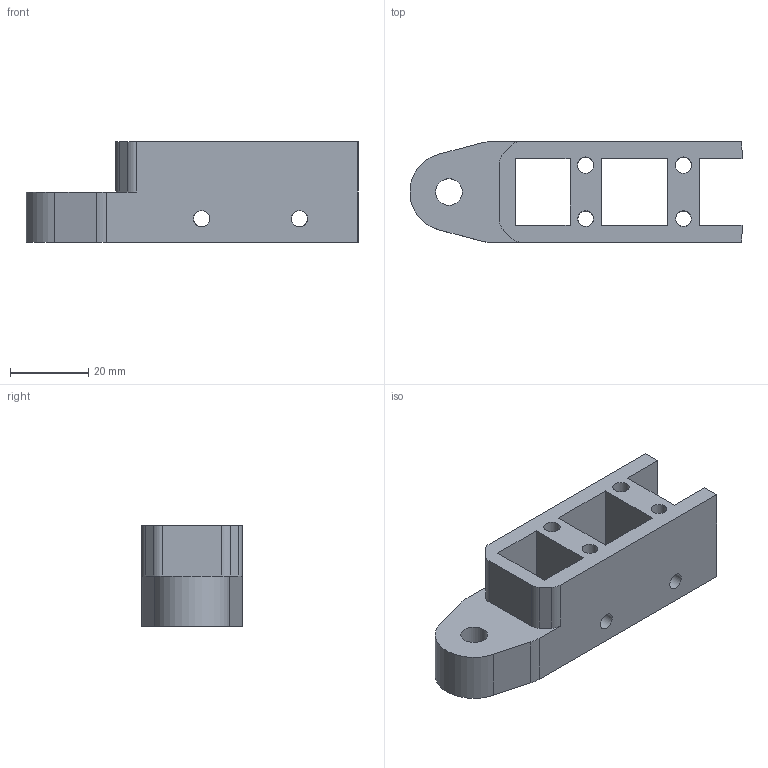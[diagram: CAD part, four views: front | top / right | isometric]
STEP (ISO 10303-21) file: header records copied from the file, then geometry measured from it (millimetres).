
FILE_DESCRIPTION (( 'STEP AP214' ), '1' );
FILE_NAME ('N15606-INF.step', '2024-12-03T16:25:47', ( '' ), ( '' ), 'SwSTEP 2.0', 'SolidWorks 2023', '' );
FILE_SCHEMA (( 'AUTOMOTIVE_DESIGN' ));
Length unit declared in the file: millimetre
Products named in the file (1): N15606-INF
Bounding box: 84.96 x 25.7 x 25.7 mm (x, y, z)
Volume: 26057.1 mm3; surface area: 13227.8 mm2
Topology: 1 solids, 1 shells, 43 faces, 137 edges, 90 vertices
Faces by surface type: plane 23, cylinder 20
Full cylindrical faces by diameter (mm): 4 x4, 4.2 x8, 6.8 x1
Entity records: 1659 total; most frequent: CARTESIAN_POINT 524, ORIENTED_EDGE 220, DIRECTION 214, EDGE_CURVE 110, EDGE_LOOP 78, VERTEX_POINT 78, AXIS2_PLACEMENT_3D 72, LINE 70
